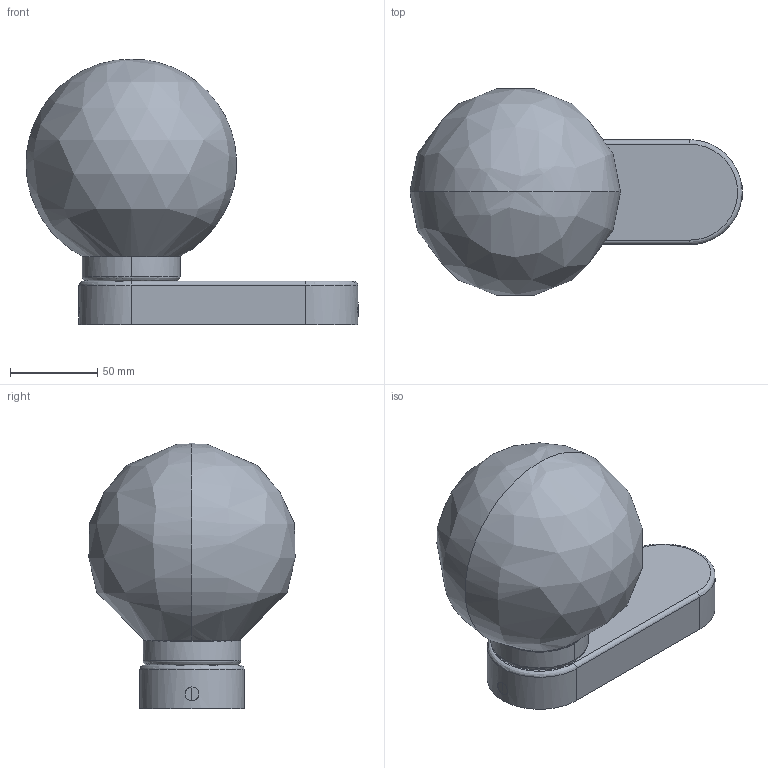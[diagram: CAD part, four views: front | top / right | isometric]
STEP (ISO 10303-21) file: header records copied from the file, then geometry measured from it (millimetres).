
FILE_DESCRIPTION(/* description */ (''),/* implementation_level */ '2;1');
FILE_NAME(/* name */ '62830.step',/* time_stamp */ '2024-10-15T15:24:56+02:00',/* author */ ('RenataManzini'),/* organization */ (''),/* preprocessor_version */ 'ST-DEVELOPER v20',/* originating_system */ 'AutoCAD Mechanical',/* authorisation */ '');
FILE_SCHEMA (('AUTOMOTIVE_DESIGN { 1 0 10303 214 3 1 1 }'));
Length unit declared in the file: millimetre
Products named in the file (2): Product; Mabe - lamp-722054-_3D_
Assembly tree (1 placements, depth 2):
  Product
    Mabe - lamp-722054-_3D_
Bounding box: 190.4 x 118.19 x 152.27 mm (x, y, z)
Volume: 206243 mm3; surface area: 147461.8 mm2
Topology: 7 solids, 7 shells, 107 faces, 237 edges, 143 vertices
Faces by surface type: cylinder 46, plane 39, torus 12, cone 6, bspline 4
Entity records: 3865 total; most frequent: CARTESIAN_POINT 1520, DIRECTION 464, ORIENTED_EDGE 460, EDGE_CURVE 230, AXIS2_PLACEMENT_3D 178, VERTEX_POINT 138, EDGE_LOOP 118, LINE 108
